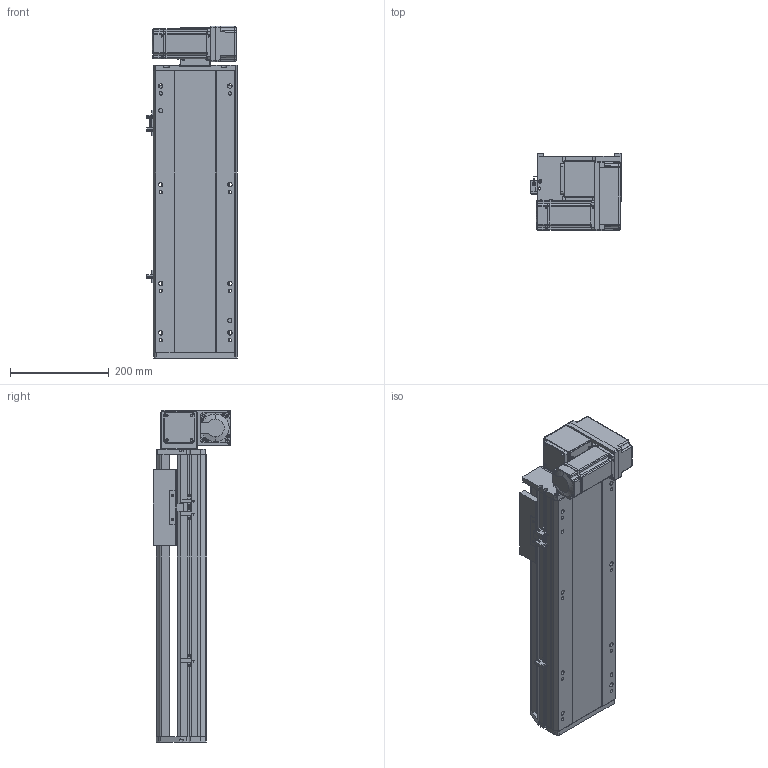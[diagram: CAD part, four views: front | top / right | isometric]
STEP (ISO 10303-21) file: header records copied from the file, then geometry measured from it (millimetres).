
FILE_DESCRIPTION (( 'STEP AP214' ), '1' );
FILE_NAME ('RTB17S-XX-300-RM-M40-C4.STEP', '2025-12-11T08:10:24', ( '' ), ( '' ), 'SwSTEP 2.0', 'SolidWorks 2018', '' );
FILE_SCHEMA (( 'AUTOMOTIVE_DESIGN' ));
Length unit declared in the file: millimetre
Products named in the file (14): RTB17S-L-004佪裝蹟譫蟀諉釱^RTB17S-XX-XX-RM-M40-C4; RTB17S-L-007奻裔^RTB17S-XX-XX-RM-M40-C4; RTH13-BL-012覜茼え俋离^RTB17S-XX-XX-RM-M40-C4; RTB17S-L-001耜醱啣^RTB17S-XX-XX-RM-M40-C4; RTB17S-RM-々湍釱蚾饜-400W^RTB17S-XX-XX-RM-M40-C4; RTB14-L-017P^RTB17S-RM-々湍釱蚾饜-400W_RTB17S-XX-XX-RM-M40-C4; RTB17S-XX-300-RM-M40-C4; RTB14-L-008-M20--萇儂啣^RTB17S-RM-々湍釱蚾饜-400W_RTB17S-XX-XX-RM-M40-C4; RTB17-R-011菁釱^RTB17S-XX-XX-RM-M40-C4; RTB14-L-005P--轴承塑胶压盖^RTB17S-RM-皮带座装配-400W_RTB17S-XX-XX-RM-M40-C4; OMRON EE-SX672 传感器^RTB17S-XX-XX-RM-M40-C4; RTB14-L-018P^RTB17S-RM-々湍釱蚾饜-400W_RTB17S-XX-XX-RM-M40-C4; RTB17S-L-014-T20--々湍釱^RTB17S-RM-々湍釱蚾饜-400W_RTB17S-XX-XX-RM-M40-C4; 400W侜督萇儂^RTB17S-XX-XX-RM-M40-C4
Assembly tree (16 placements, depth 3):
  RTB17S-XX-300-RM-M40-C4
    RTB17-R-011菁釱^RTB17S-XX-XX-RM-M40-C4
    RTB17S-L-007奻裔^RTB17S-XX-XX-RM-M40-C4
    OMRON EE-SX672 传感器^RTB17S-XX-XX-RM-M40-C4  x3
    RTB17S-L-001耜醱啣^RTB17S-XX-XX-RM-M40-C4
    400W侜督萇儂^RTB17S-XX-XX-RM-M40-C4
    RTB17S-L-004佪裝蹟譫蟀諉釱^RTB17S-XX-XX-RM-M40-C4
    RTH13-BL-012覜茼え俋离^RTB17S-XX-XX-RM-M40-C4
    RTB17S-RM-々湍釱蚾饜-400W^RTB17S-XX-XX-RM-M40-C4
      RTB17S-L-014-T20--々湍釱^RTB17S-RM-々湍釱蚾饜-400W_RTB17S-XX-XX-RM-M40-C4
      RTB14-L-005P--轴承塑胶压盖^RTB17S-RM-皮带座装配-400W_RTB17S-XX-XX-RM-M40-C4
      RTB14-L-008-M20--萇儂啣^RTB17S-RM-々湍釱蚾饜-400W_RTB17S-XX-XX-RM-M40-C4
      RTB14-L-017P^RTB17S-RM-々湍釱蚾饜-400W_RTB17S-XX-XX-RM-M40-C4  x2
      RTB14-L-018P^RTB17S-RM-々湍釱蚾饜-400W_RTB17S-XX-XX-RM-M40-C4
Bounding box: 183.5 x 156.5 x 672.5 mm (x, y, z)
Volume: 6663312.5 mm3; surface area: 876460.2 mm2
Topology: 15 solids, 15 shells, 2157 faces, 5925 edges, 3861 vertices
Faces by surface type: plane 1062, cylinder 647, bspline 301, cone 139, torus 8
Entity records: 60329 total; most frequent: CARTESIAN_POINT 16730, ORIENTED_EDGE 8694, DIRECTION 8126, EDGE_CURVE 4347, VERTEX_POINT 2849, AXIS2_PLACEMENT_3D 2779, LINE 2568, VECTOR 2568
